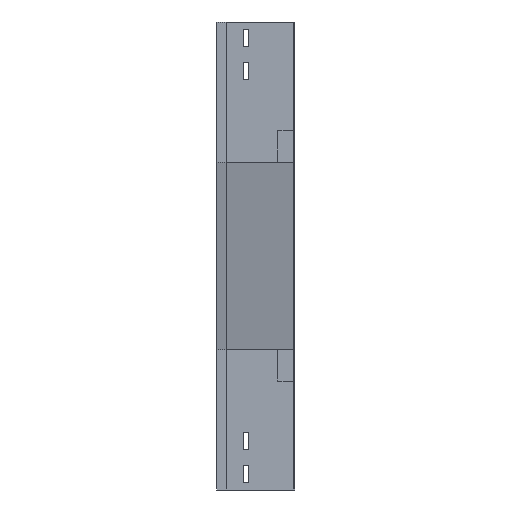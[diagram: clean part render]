
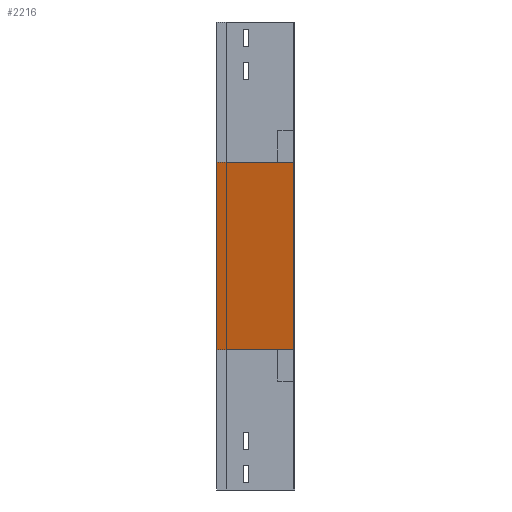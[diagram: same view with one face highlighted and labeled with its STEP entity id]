
A CAD part, left-side view. The second image highlights one B-rep face of the part: STEP entity #2216.
In plain terms, the highlighted planar face has unit normal (-0.979, 0, -0.204).
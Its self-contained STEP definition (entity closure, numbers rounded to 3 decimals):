
#67 = VERTEX_POINT ( 'NONE', #3870 ) ;
#262 = LINE ( 'NONE', #1493, #3743 ) ;
#309 = DIRECTION ( 'NONE',  ( 0.979, 0., 0.204 ) ) ;
#326 = CARTESIAN_POINT ( 'NONE',  ( 0., 100., -180. ) ) ;
#337 = ORIENTED_EDGE ( 'NONE', *, *, #1337, .F. ) ;
#431 = LINE ( 'NONE', #2316, #2709 ) ;
#773 = DIRECTION ( 'NONE',  ( 0., 1., 0. ) ) ;
#839 = EDGE_LOOP ( 'NONE', ( #337, #1289, #1568, #1807 ) ) ;
#1037 = CARTESIAN_POINT ( 'NONE',  ( 50., 100., -420. ) ) ;
#1043 = VERTEX_POINT ( 'NONE', #326 ) ;
#1074 = LINE ( 'NONE', #2297, #3750 ) ;
#1115 = DIRECTION ( 'NONE',  ( 0.204, 0., -0.979 ) ) ;
#1145 = EDGE_CURVE ( 'NONE', #1043, #67, #431, .T. ) ;
#1289 = ORIENTED_EDGE ( 'NONE', *, *, #1145, .F. ) ;
#1337 = EDGE_CURVE ( 'NONE', #67, #2641, #262, .T. ) ;
#1441 = AXIS2_PLACEMENT_3D ( 'NONE', #3142, #309, #2461 ) ;
#1455 = LINE ( 'NONE', #2031, #3550 ) ;
#1493 = CARTESIAN_POINT ( 'NONE',  ( 0., 0., -180. ) ) ;
#1568 = ORIENTED_EDGE ( 'NONE', *, *, #2508, .T. ) ;
#1807 = ORIENTED_EDGE ( 'NONE', *, *, #2437, .F. ) ;
#1817 = DIRECTION ( 'NONE',  ( 0.204, 0., -0.979 ) ) ;
#2031 = CARTESIAN_POINT ( 'NONE',  ( 0., 100., -180. ) ) ;
#2216 = ADVANCED_FACE ( 'NONE', ( #2483 ), #2541, .F. ) ;
#2297 = CARTESIAN_POINT ( 'NONE',  ( 50., 0., -420. ) ) ;
#2316 = CARTESIAN_POINT ( 'NONE',  ( 0., 0., -180. ) ) ;
#2437 = EDGE_CURVE ( 'NONE', #2641, #3525, #1074, .T. ) ;
#2461 = DIRECTION ( 'NONE',  ( 0.204, 0., -0.979 ) ) ;
#2483 = FACE_OUTER_BOUND ( 'NONE', #839, .T. ) ;
#2508 = EDGE_CURVE ( 'NONE', #1043, #3525, #1455, .T. ) ;
#2540 = DIRECTION ( 'NONE',  ( 0., -1., 0. ) ) ;
#2541 = PLANE ( 'NONE',  #1441 ) ;
#2641 = VERTEX_POINT ( 'NONE', #2757 ) ;
#2709 = VECTOR ( 'NONE', #2540, 1000. ) ;
#2757 = CARTESIAN_POINT ( 'NONE',  ( 50., 0., -420. ) ) ;
#3142 = CARTESIAN_POINT ( 'NONE',  ( 0., 0., -180. ) ) ;
#3525 = VERTEX_POINT ( 'NONE', #1037 ) ;
#3550 = VECTOR ( 'NONE', #1817, 1000. ) ;
#3743 = VECTOR ( 'NONE', #1115, 1000. ) ;
#3750 = VECTOR ( 'NONE', #773, 1000. ) ;
#3870 = CARTESIAN_POINT ( 'NONE',  ( 0., 0., -180. ) ) ;
